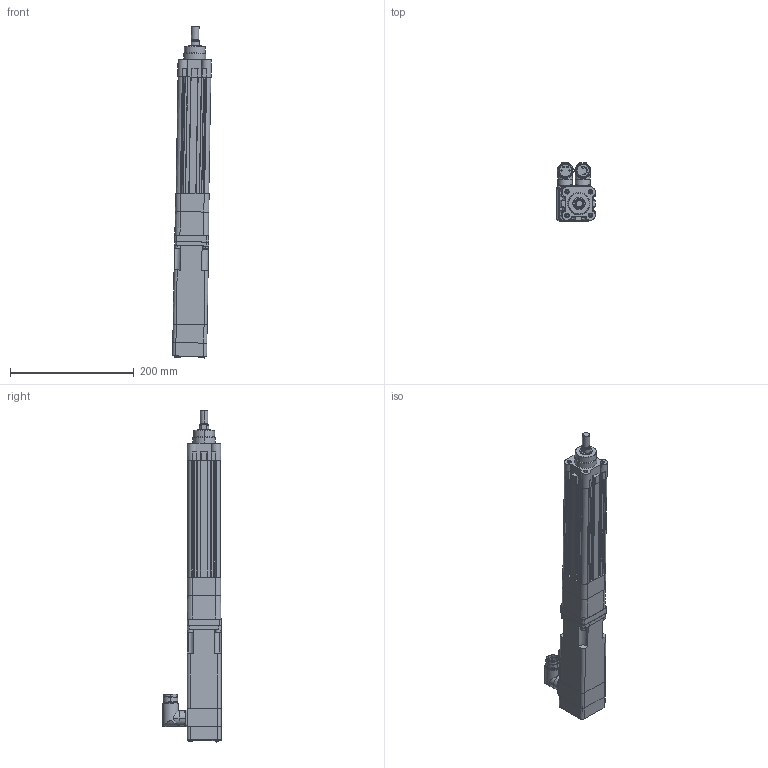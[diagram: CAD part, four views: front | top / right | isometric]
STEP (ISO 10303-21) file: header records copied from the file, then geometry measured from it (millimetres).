
FILE_DESCRIPTION (( 'STEP AP214' ), '1' );
FILE_NAME ('Rockwell Automation-$PARTNUMBER.STEP', '2013-02-05T20:27:58', ( 'Windows User' ), ( '' ), 'SwSTEP 2.0', 'SolidWorks 2013', '' );
FILE_SCHEMA (( 'AUTOMOTIVE_DESIGN' ));
Length unit declared in the file: millimetre
Products named in the file (14): Rockwell Automation-$PARTNUMBER_Rockwell Automation-MPAR-x2100C-V4A_DIN912-4X12; Rockwell Automation-$PARTNUMBER_Rockwell Automation-MPAR-x2100C-V4A_627453; Rockwell Automation-$PARTNUMBER_Rockwell Automation-MPAR-x2100C-V4A_DIN912-6X30; Rockwell Automation-$PARTNUMBER_Rockwell Automation-MPAR-x2100C-V4A_627459; Rockwell Automation-$PARTNUMBER; Rockwell Automation-$PARTNUMBER_Rockwell Automation-MPAR-x2100C-V4A__MPL-x1530F-V-X208_MPL-x1530x-xJ44AA; Rockwell Automation-$PARTNUMBER_Rockwell Automation-MPAR-x2100C-V4A__MPL-x1530x-xJ44AA_MPL-15xx-Feedback Connector; Rockwell Automation-$PARTNUMBER_Rockwell Automation-MPAR-x2100C-V4A__MPL-x1530x-xJ44AA_MPL-15xx-Power Connector; Rockwell Automation-$PARTNUMBER_Rockwell Automation-MPAR-x2100C-V4A__MPL-x1530x-xJ44AA_MPL-15xx-Shaft-Key_1530-SHAFT-KEYED-BRAKE; Rockwell Automation-$PARTNUMBER_Rockwell Automation-MPAR-x2100C-V4A__MPL-x1530x-xJ44AA_MPL-15xx-Body_1530-BRAKE; Rockwell Automation-$PARTNUMBER_Rockwell Automation-MPAR-x2100C-V4A_MPAR-x2100x; Rockwell Automation-$PARTNUMBER_Rockwell Automation-MPAR-x2100C-V4A_2-543131; Rockwell Automation-$PARTNUMBER_Rockwell Automation-MPAR-x2100C-V4A_1-543131; Rockwell Automation-$PARTNUMBER_Rockwell Automation-MPAR-x2100C-V4A_DIN912-5X20
Assembly tree (21 placements, depth 3):
  Rockwell Automation-$PARTNUMBER
    Rockwell Automation-$PARTNUMBER_Rockwell Automation-MPAR-x2100C-V4A_627459
    Rockwell Automation-$PARTNUMBER_Rockwell Automation-MPAR-x2100C-V4A_DIN912-6X30  x4
    Rockwell Automation-$PARTNUMBER_Rockwell Automation-MPAR-x2100C-V4A_627453
    Rockwell Automation-$PARTNUMBER_Rockwell Automation-MPAR-x2100C-V4A_DIN912-4X12  x3
    Rockwell Automation-$PARTNUMBER_Rockwell Automation-MPAR-x2100C-V4A_DIN912-5X20  x4
    Rockwell Automation-$PARTNUMBER_Rockwell Automation-MPAR-x2100C-V4A_MPAR-x2100x
      Rockwell Automation-$PARTNUMBER_Rockwell Automation-MPAR-x2100C-V4A_1-543131
      Rockwell Automation-$PARTNUMBER_Rockwell Automation-MPAR-x2100C-V4A_2-543131
    Rockwell Automation-$PARTNUMBER_Rockwell Automation-MPAR-x2100C-V4A__MPL-x1530F-V-X208_MPL-x1530x-xJ44AA
      Rockwell Automation-$PARTNUMBER_Rockwell Automation-MPAR-x2100C-V4A__MPL-x1530x-xJ44AA_MPL-15xx-Body_1530-BRAKE
      Rockwell Automation-$PARTNUMBER_Rockwell Automation-MPAR-x2100C-V4A__MPL-x1530x-xJ44AA_MPL-15xx-Shaft-Key_1530-SHAFT-KEYED-BRAKE
      Rockwell Automation-$PARTNUMBER_Rockwell Automation-MPAR-x2100C-V4A__MPL-x1530x-xJ44AA_MPL-15xx-Power Connector
      Rockwell Automation-$PARTNUMBER_Rockwell Automation-MPAR-x2100C-V4A__MPL-x1530x-xJ44AA_MPL-15xx-Feedback Connector
Bounding box: 62.92 x 94.15 x 536.9 mm (x, y, z)
Volume: 922827.5 mm3; surface area: 268333.2 mm2
Topology: 22 solids, 27 shells, 1570 faces, 3816 edges, 2396 vertices
Faces by surface type: plane 658, cylinder 516, cone 283, bspline 65, torus 48
Entity records: 46852 total; most frequent: CARTESIAN_POINT 10795, DIRECTION 7353, ORIENTED_EDGE 6836, EDGE_CURVE 3422, AXIS2_PLACEMENT_3D 2757, VERTEX_POINT 2172, LINE 1839, VECTOR 1839
